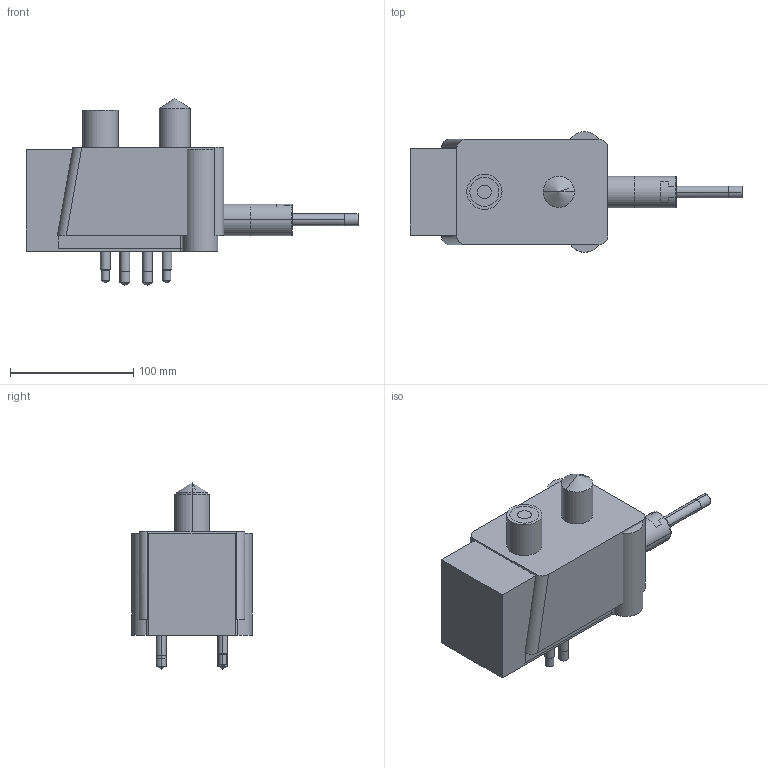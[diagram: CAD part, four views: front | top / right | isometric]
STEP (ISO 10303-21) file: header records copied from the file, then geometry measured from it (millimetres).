
FILE_DESCRIPTION((' '),'2;1');
FILE_NAME( 'EZ-00-P.stp', '2023-11-29T14:28:54', (' '), ('--- Datakit www.datakit.com---'), ' Datakit CrossCadWare V2020.4 Oct 21 2020', 'Export from SolidLink (Hexagon Production Software)', ' ');
FILE_SCHEMA(('AP242_MANAGED_MODEL_BASED_3D_ENGINEERING_MIM_LF { 1 0 10303 442 1 1 4 }'));
Length unit declared in the file: millimetre
Products named in the file (122): Workplanes; 1700492958; 1675788838; 1679055784; 1700493935; 1675793978; 1592308050; 1532962619; 1552079067; 1567598516; 1567598554; 1582120636; 1582121305; 1582122841; 1552080222; 1562099358; 1562100740; 1582228296; 1701286134; 1701286135; 1701286136; 1701286137; 1701286138; 1701286139; 1701286140; 1701286141; 1701286142; 1701286143; 1701286144; 1701286145; 1701286146; 1701286147; 1701286148; 1701286149; 1701286150; 1701286151; 1701286152; 1701286153; 1701286154; 1701286155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
Bounding box: 269.42 x 97.7 x 151.64 mm (x, y, z)
Volume: 2548938.6 mm3; surface area: 229642.6 mm2
Topology: 16 solids, 17 shells, 366 faces, 1051 edges, 932 vertices
Faces by surface type: plane 139, cylinder 125, cone 86, torus 6, sphere 4, revolution 4, bspline 2
Entity records: 16554 total; most frequent: CARTESIAN_POINT 5319, DIRECTION 2300, ORIENTED_EDGE 1652, AXIS2_PLACEMENT_3D 916, EDGE_CURVE 832, VERTEX_POINT 530, VECTOR 464, LINE 464
